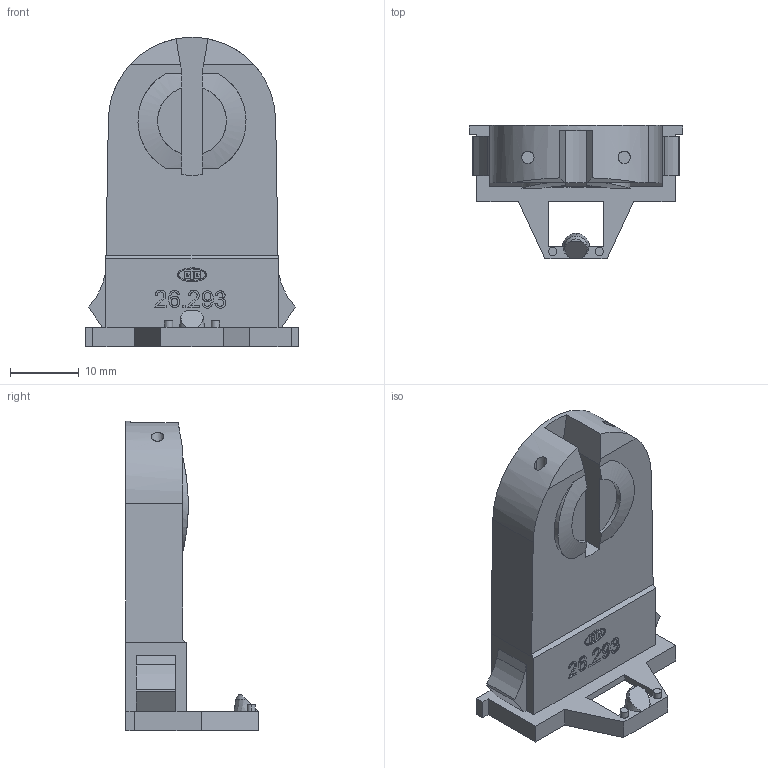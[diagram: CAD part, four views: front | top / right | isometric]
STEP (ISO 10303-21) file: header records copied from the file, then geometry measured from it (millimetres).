
FILE_DESCRIPTION((' '),'1');
FILE_NAME('00AYN0HY06.stp','2007-12-19 T',(' '),(' '),'STEP Interface v1.0 by CT CoreTechnologie','3D_Evolution v1.0 by CT CoreTechnologie',' ');
FILE_SCHEMA(('CONFIG_CONTROL_DESIGN'));
Length unit declared in the file: millimetre
Products named in the file (1): 00AYN0HY06
Bounding box: 31 x 19.3 x 44.95 mm (x, y, z)
Volume: 8229.8 mm3; surface area: 4486.2 mm2
Topology: 1 solids, 1 shells, 249 faces, 672 edges, 448 vertices
Faces by surface type: plane 142, cylinder 91, bspline 16
Entity records: 10984 total; most frequent: CARTESIAN_POINT 2360, ORIENTED_EDGE 1344, DIRECTION 1307, EDGE_CURVE 672, VECTOR 449, LINE 449, VERTEX_POINT 448, AXIS2_PLACEMENT_3D 429
